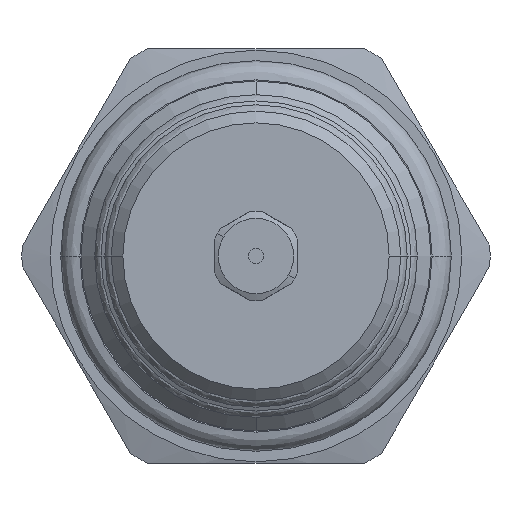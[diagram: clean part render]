
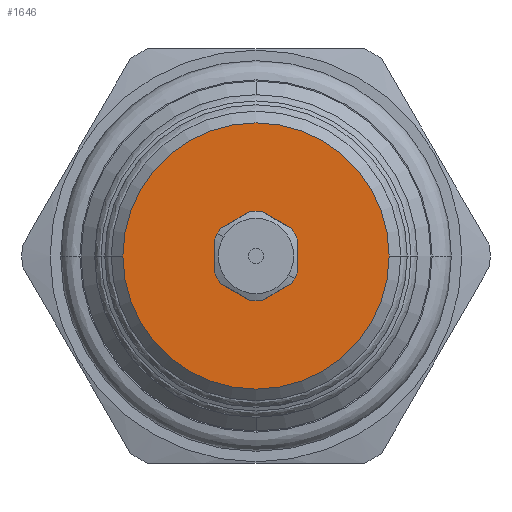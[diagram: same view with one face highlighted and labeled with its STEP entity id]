
A CAD part, front view. The second image highlights one B-rep face of the part: STEP entity #1646.
In plain terms, the highlighted planar face has unit normal (0, -1, 0).
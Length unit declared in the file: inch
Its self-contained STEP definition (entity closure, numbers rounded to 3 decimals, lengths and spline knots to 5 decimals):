
#153=CARTESIAN_POINT('',(0.,-2.847,0.));
#154=DIRECTION('',(0.,-1.,0.));
#155=DIRECTION('',(-1.,0.,0.));
#156=AXIS2_PLACEMENT_3D('',#153,#154,#155);
#171=DIRECTION('',(-0.866,0.,-0.5));
#172=VECTOR('',#171,0.10198);
#173=CARTESIAN_POINT('',(0.10666,-2.847,-0.08276));
#174=LINE('',#173,#172);
#175=CARTESIAN_POINT('',(0.,-2.847,0.));
#176=DIRECTION('',(0.,1.,0.));
#177=DIRECTION('',(0.926,0.,-0.378));
#178=AXIS2_PLACEMENT_3D('',#175,#176,#177);
#180=DIRECTION('',(0.,0.,-1.));
#181=VECTOR('',#180,0.10198);
#182=CARTESIAN_POINT('',(0.125,-2.847,0.05099));
#183=LINE('',#182,#181);
#184=CARTESIAN_POINT('',(0.,-2.847,0.));
#185=DIRECTION('',(0.,1.,0.));
#186=DIRECTION('',(0.79,0.,0.613));
#187=AXIS2_PLACEMENT_3D('',#184,#185,#186);
#189=DIRECTION('',(0.866,0.,-0.5));
#190=VECTOR('',#189,0.10198);
#191=CARTESIAN_POINT('',(0.01834,-2.847,0.13375));
#192=LINE('',#191,#190);
#193=CARTESIAN_POINT('',(0.,-2.847,0.));
#194=DIRECTION('',(0.,1.,0.));
#195=DIRECTION('',(-0.136,0.,0.991));
#196=AXIS2_PLACEMENT_3D('',#193,#194,#195);
#198=DIRECTION('',(0.866,0.,0.5));
#199=VECTOR('',#198,0.10198);
#200=CARTESIAN_POINT('',(-0.10666,-2.847,0.08276));
#201=LINE('',#200,#199);
#202=CARTESIAN_POINT('',(0.,-2.847,0.));
#203=DIRECTION('',(0.,1.,0.));
#204=DIRECTION('',(-0.926,0.,0.378));
#205=AXIS2_PLACEMENT_3D('',#202,#203,#204);
#207=DIRECTION('',(0.,0.,1.));
#208=VECTOR('',#207,0.10198);
#209=CARTESIAN_POINT('',(-0.125,-2.847,-0.05099));
#210=LINE('',#209,#208);
#211=CARTESIAN_POINT('',(0.,-2.847,0.));
#212=DIRECTION('',(0.,1.,0.));
#213=DIRECTION('',(-0.79,0.,-0.613));
#214=AXIS2_PLACEMENT_3D('',#211,#212,#213);
#216=DIRECTION('',(-0.866,0.,0.5));
#217=VECTOR('',#216,0.10198);
#218=CARTESIAN_POINT('',(-0.01834,-2.847,-0.13375));
#219=LINE('',#218,#217);
#220=CARTESIAN_POINT('',(0.,-2.847,0.));
#221=DIRECTION('',(0.,1.,0.));
#222=DIRECTION('',(0.136,0.,-0.991));
#223=AXIS2_PLACEMENT_3D('',#220,#221,#222);
#225=CARTESIAN_POINT('',(0.,-2.847,0.));
#226=DIRECTION('',(0.,-1.,0.));
#227=DIRECTION('',(1.,0.,0.));
#228=AXIS2_PLACEMENT_3D('',#225,#226,#227);
#1109=CARTESIAN_POINT('',(0.401,-2.847,0.));
#1110=CARTESIAN_POINT('',(-0.401,-2.847,0.));
#1111=VERTEX_POINT('',#1109);
#1112=VERTEX_POINT('',#1110);
#1301=CARTESIAN_POINT('',(0.10666,-2.847,-0.08276));
#1302=CARTESIAN_POINT('',(0.01834,-2.847,-0.13375));
#1303=VERTEX_POINT('',#1301);
#1304=VERTEX_POINT('',#1302);
#1305=CARTESIAN_POINT('',(-0.01834,-2.847,-0.13375));
#1306=CARTESIAN_POINT('',(-0.10666,-2.847,-0.08276));
#1307=VERTEX_POINT('',#1305);
#1308=VERTEX_POINT('',#1306);
#1309=CARTESIAN_POINT('',(-0.125,-2.847,-0.05099));
#1310=CARTESIAN_POINT('',(-0.125,-2.847,0.05099));
#1311=VERTEX_POINT('',#1309);
#1312=VERTEX_POINT('',#1310);
#1313=CARTESIAN_POINT('',(-0.10666,-2.847,0.08276));
#1314=CARTESIAN_POINT('',(-0.01834,-2.847,0.13375));
#1315=VERTEX_POINT('',#1313);
#1316=VERTEX_POINT('',#1314);
#1317=CARTESIAN_POINT('',(0.01834,-2.847,0.13375));
#1318=CARTESIAN_POINT('',(0.10666,-2.847,0.08276));
#1319=VERTEX_POINT('',#1317);
#1320=VERTEX_POINT('',#1318);
#1321=CARTESIAN_POINT('',(0.125,-2.847,0.05099));
#1322=CARTESIAN_POINT('',(0.125,-2.847,-0.05099));
#1323=VERTEX_POINT('',#1321);
#1324=VERTEX_POINT('',#1322);
#1610=CARTESIAN_POINT('',(0.,-2.847,0.));
#1611=DIRECTION('',(0.,1.,0.));
#1612=DIRECTION('',(1.,0.,0.));
#1613=AXIS2_PLACEMENT_3D('',#1610,#1611,#1612);
#1614=PLANE('',#1613);
#1615=ORIENTED_EDGE('',*,*,#1600,.F.);
#1617=ORIENTED_EDGE('',*,*,#1616,.F.);
#1618=EDGE_LOOP('',(#1615,#1617));
#1619=FACE_OUTER_BOUND('',#1618,.F.);
#1621=ORIENTED_EDGE('',*,*,#1620,.F.);
#1623=ORIENTED_EDGE('',*,*,#1622,.F.);
#1625=ORIENTED_EDGE('',*,*,#1624,.F.);
#1627=ORIENTED_EDGE('',*,*,#1626,.F.);
#1629=ORIENTED_EDGE('',*,*,#1628,.F.);
#1631=ORIENTED_EDGE('',*,*,#1630,.F.);
#1633=ORIENTED_EDGE('',*,*,#1632,.F.);
#1635=ORIENTED_EDGE('',*,*,#1634,.F.);
#1637=ORIENTED_EDGE('',*,*,#1636,.F.);
#1639=ORIENTED_EDGE('',*,*,#1638,.F.);
#1641=ORIENTED_EDGE('',*,*,#1640,.F.);
#1643=ORIENTED_EDGE('',*,*,#1642,.F.);
#1644=EDGE_LOOP('',(#1621,#1623,#1625,#1627,#1629,#1631,#1633,#1635,#1637,#1639,
#1641,#1643));
#1645=FACE_BOUND('',#1644,.F.);
#1646=ADVANCED_FACE('',(#1619,#1645),#1614,.F.);
#157=CIRCLE('',#156,0.401);
#179=CIRCLE('',#178,0.135);
#188=CIRCLE('',#187,0.135);
#197=CIRCLE('',#196,0.135);
#206=CIRCLE('',#205,0.135);
#215=CIRCLE('',#214,0.135);
#224=CIRCLE('',#223,0.135);
#229=CIRCLE('',#228,0.401);
#1600=EDGE_CURVE('',#1112,#1111,#157,.T.);
#1616=EDGE_CURVE('',#1111,#1112,#229,.T.);
#1620=EDGE_CURVE('',#1303,#1304,#174,.T.);
#1622=EDGE_CURVE('',#1324,#1303,#179,.T.);
#1624=EDGE_CURVE('',#1323,#1324,#183,.T.);
#1626=EDGE_CURVE('',#1320,#1323,#188,.T.);
#1628=EDGE_CURVE('',#1319,#1320,#192,.T.);
#1630=EDGE_CURVE('',#1316,#1319,#197,.T.);
#1632=EDGE_CURVE('',#1315,#1316,#201,.T.);
#1634=EDGE_CURVE('',#1312,#1315,#206,.T.);
#1636=EDGE_CURVE('',#1311,#1312,#210,.T.);
#1638=EDGE_CURVE('',#1308,#1311,#215,.T.);
#1640=EDGE_CURVE('',#1307,#1308,#219,.T.);
#1642=EDGE_CURVE('',#1304,#1307,#224,.T.);
